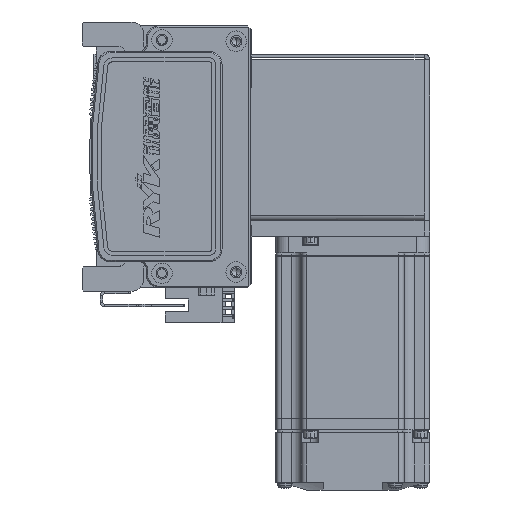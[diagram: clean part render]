
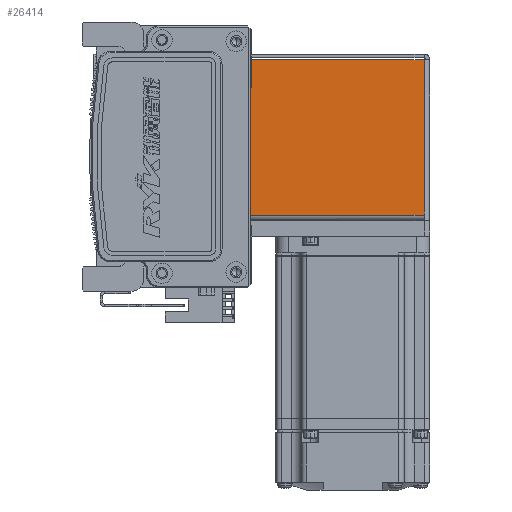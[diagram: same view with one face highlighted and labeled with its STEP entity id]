
A CAD part, left-side view. The second image highlights one B-rep face of the part: STEP entity #26414.
In plain terms, the highlighted planar face has unit normal (-1, 0, 0) as drawn and (0, 0, -1) by its records, which use the part's own axes.
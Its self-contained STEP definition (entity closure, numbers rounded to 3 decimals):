
#919 = LINE ( 'NONE', #41581, #2529 ) ;
#966 = AXIS2_PLACEMENT_3D ( 'NONE', #45001, #4685, #52068 ) ;
#2313 = VECTOR ( 'NONE', #51512, 1000. ) ;
#2529 = VECTOR ( 'NONE', #47508, 1000. ) ;
#2949 = EDGE_LOOP ( 'NONE', ( #63202, #28903, #35777, #61767 ) ) ;
#4685 = DIRECTION ( 'NONE',  ( 0., 0., 1. ) ) ;
#8371 = PLANE ( 'NONE',  #966 ) ;
#8388 = VERTEX_POINT ( 'NONE', #21184 ) ;
#15830 = VERTEX_POINT ( 'NONE', #56593 ) ;
#21117 = VERTEX_POINT ( 'NONE', #61227 ) ;
#21184 = CARTESIAN_POINT ( 'NONE',  ( 30.263, 0.737, -35. ) ) ;
#26106 = CARTESIAN_POINT ( 'NONE',  ( -30.293, 0., -35. ) ) ;
#26414 = ADVANCED_FACE ( 'NONE', ( #45187 ), #8371, .F. ) ;
#28903 = ORIENTED_EDGE ( 'NONE', *, *, #56702, .F. ) ;
#29887 = VECTOR ( 'NONE', #65087, 1000. ) ;
#33562 = CARTESIAN_POINT ( 'NONE',  ( 30.263, 72.5, -35. ) ) ;
#34832 = DIRECTION ( 'NONE',  ( 1., 0., 0. ) ) ;
#35777 = ORIENTED_EDGE ( 'NONE', *, *, #63524, .T. ) ;
#38673 = EDGE_CURVE ( 'NONE', #21117, #8388, #58551, .T. ) ;
#41234 = EDGE_CURVE ( 'NONE', #67739, #21117, #919, .T. ) ;
#41581 = CARTESIAN_POINT ( 'NONE',  ( 0., 72.5, -35. ) ) ;
#45001 = CARTESIAN_POINT ( 'NONE',  ( 0., 0., -35. ) ) ;
#45187 = FACE_OUTER_BOUND ( 'NONE', #2949, .T. ) ;
#47508 = DIRECTION ( 'NONE',  ( 1., 0., 0. ) ) ;
#48479 = LINE ( 'NONE', #65885, #60683 ) ;
#51512 = DIRECTION ( 'NONE',  ( 0., 1., 0. ) ) ;
#52068 = DIRECTION ( 'NONE',  ( 0., -1., 0. ) ) ;
#55646 = CARTESIAN_POINT ( 'NONE',  ( -30.293, 72.5, -35. ) ) ;
#56593 = CARTESIAN_POINT ( 'NONE',  ( -30.293, 0.737, -35. ) ) ;
#56702 = EDGE_CURVE ( 'NONE', #15830, #8388, #48479, .T. ) ;
#58551 = LINE ( 'NONE', #33562, #29887 ) ;
#60683 = VECTOR ( 'NONE', #34832, 1000. ) ;
#61227 = CARTESIAN_POINT ( 'NONE',  ( 30.263, 72.5, -35. ) ) ;
#61767 = ORIENTED_EDGE ( 'NONE', *, *, #41234, .T. ) ;
#63202 = ORIENTED_EDGE ( 'NONE', *, *, #38673, .T. ) ;
#63524 = EDGE_CURVE ( 'NONE', #15830, #67739, #64582, .T. ) ;
#64582 = LINE ( 'NONE', #26106, #2313 ) ;
#65087 = DIRECTION ( 'NONE',  ( 0., -1., 0. ) ) ;
#65885 = CARTESIAN_POINT ( 'NONE',  ( 32.5, 0.737, -35. ) ) ;
#67739 = VERTEX_POINT ( 'NONE', #55646 ) ;
